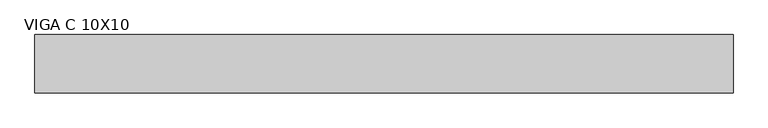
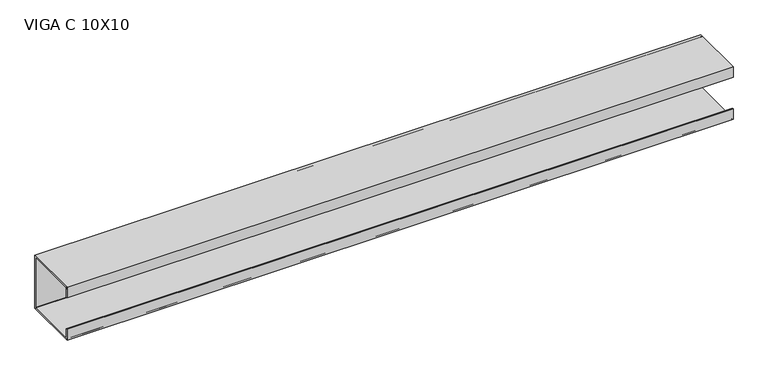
"""IFC4 building model written with IfcOpenShell, lengths in millimetres: beam geometry, VIGA PERFIL C AÇO : VIGA C 10X10."""

from ifc_helpers import new_model, si_unit, point, frame, frame_2d, origin, place, context, project, spatial, polyline, circle_curve, trimmed, segment, composite_curve, outline, extrude, source, transform, mapped, element, save


def viga_c_10x10_36be5f80(model_context):
    return source(origin(), model_context, "Body", "SweptSolid", [
        extrude(outline(polyline([(9.2, -50.0), (-90.8, -50.0), (-90.8, -30.0), (-88.9, -30.0), (-88.9, -48.1), (7.3, -48.1), (7.3, 48.1), (-88.9, 48.1), (-88.9, 30.0), (-90.8, 30.0), (-90.8, 50.0), (9.2, 50.0), (9.2, -50.0)])), frame((-568.5, 0.0, 0.0), z_axis=(1.0, 0.0, 0.0), x_axis=(0.0, 1.0, 0.0)), (0.0, 0.0, 1.0), 1197.0),
        extrude(outline(composite_curve([segment(trimmed(circle_curve(frame_2d((5.4, -46.2)), 3.8), [point((9.2, -46.2))], [point((5.4, -50.0))], False, "CARTESIAN"), True, "CONTINUOUS"), segment(polyline([(5.4, -50.0), (-87.0, -50.0)]), True, "CONTINUOUS"), segment(trimmed(circle_curve(frame_2d((-87.0, -46.2)), 3.8), [point((-87.0, -50.0))], [point((-90.8, -46.2))], False, "CARTESIAN"), True, "CONTINUOUS"), segment(polyline([(-90.8, -46.2), (-90.8, -30.0), (-88.9, -30.0), (-88.9, -46.2)]), True, "CONTINUOUS"), segment(trimmed(circle_curve(frame_2d((-87.0, -46.2)), 1.9), [point((-88.9, -46.2))], [point((-87.0, -48.1))], True, "CARTESIAN"), True, "CONTINUOUS"), segment(polyline([(-87.0, -48.1), (5.4, -48.1)]), True, "CONTINUOUS"), segment(trimmed(circle_curve(frame_2d((5.4, -46.2)), 1.9), [point((5.4, -48.1))], [point((7.3, -46.2))], True, "CARTESIAN"), True, "CONTINUOUS"), segment(polyline([(7.3, -46.2), (7.3, 46.2)]), True, "CONTINUOUS"), segment(trimmed(circle_curve(frame_2d((5.4, 46.2)), 1.9), [point((7.3, 46.2))], [point((5.4, 48.1))], True, "CARTESIAN"), True, "CONTINUOUS"), segment(polyline([(5.4, 48.1), (-87.0, 48.1)]), True, "CONTINUOUS"), segment(trimmed(circle_curve(frame_2d((-87.0, 46.2)), 1.9), [point((-87.0, 48.1))], [point((-88.9, 46.2))], True, "CARTESIAN"), True, "CONTINUOUS"), segment(polyline([(-88.9, 46.2), (-88.9, 30.0), (-90.8, 30.0), (-90.8, 46.2)]), True, "CONTINUOUS"), segment(trimmed(circle_curve(frame_2d((-87.0, 46.2)), 3.8), [point((-90.8, 46.2))], [point((-87.0, 50.0))], False, "CARTESIAN"), True, "CONTINUOUS"), segment(polyline([(-87.0, 50.0), (5.4, 50.0)]), True, "CONTINUOUS"), segment(trimmed(circle_curve(frame_2d((5.4, 46.2)), 3.8), [point((5.4, 50.0))], [point((9.2, 46.2))], False, "CARTESIAN"), True, "CONTINUOUS"), segment(polyline([(9.2, 46.2), (9.2, -46.2)]), True, "CONTINUOUS")], self_intersect=False)), frame((-568.5, 0.0, 0.0), z_axis=(1.0, 0.0, 0.0), x_axis=(0.0, 1.0, 0.0)), (0.0, 0.0, 1.0), 1197.0),
    ])


if __name__ == "__main__":
    model = new_model("IFC4")
    model_context = context("Model", 3, world=origin())
    ifc_project = project(units=[si_unit("LENGTHUNIT", "METRE", prefix="MILLI")], contexts=[model_context])
    site = spatial("IfcSite", under=ifc_project)
    building = spatial("IfcBuilding", under=site)
    placement = place(None, origin())
    viga_c_10x10_shape = viga_c_10x10_36be5f80(model_context)
    element("IfcBeam", 1, ObjectType="VIGA PERFIL C AÇO : VIGA C 10X10", at=placement, inside=building, context=model_context, shape_type="MappedRepresentation", body=[
        mapped(viga_c_10x10_shape, transform((0.0, 0.0, 0.0), x_axis=(1.0, 0.0, 0.0), y_axis=(0.0, 1.0, 0.0), z_axis=(0.0, 0.0, 1.0))),
    ])
    save(model, "model.ifc")
